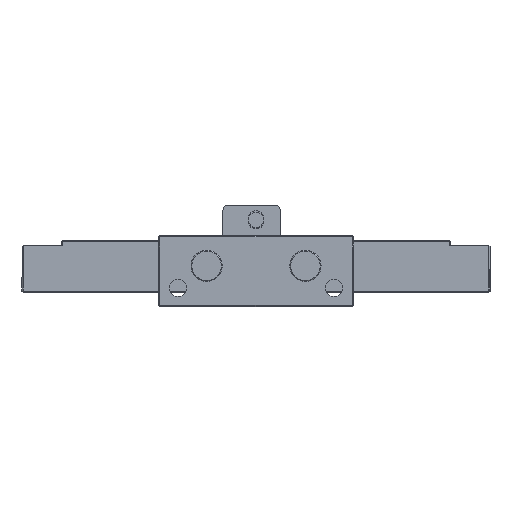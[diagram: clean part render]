
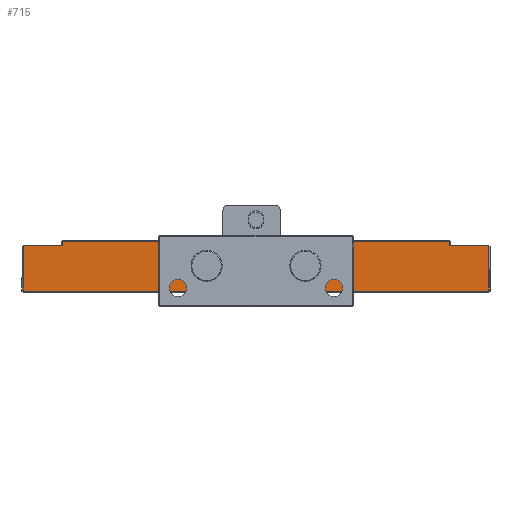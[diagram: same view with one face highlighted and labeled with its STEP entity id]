
A CAD part, top view. The second image highlights one B-rep face of the part: STEP entity #715.
In plain terms, the highlighted planar face has unit normal (0, 0, 1) as drawn and (0, 0, -1) by its records, which use the part's own axes.
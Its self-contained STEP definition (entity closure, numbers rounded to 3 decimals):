
#715 = ADVANCED_FACE ( 'NONE', ( #5490, #5896, #1964, #15398 ), #918, .F. ) ;
#719 = VERTEX_POINT ( 'NONE', #8824 ) ;
#817 = CARTESIAN_POINT ( 'NONE',  ( 89.6, -9.6, -37.5 ) ) ;
#875 = CARTESIAN_POINT ( 'NONE',  ( -26.45, 0., -37.5 ) ) ;
#918 = PLANE ( 'NONE',  #6330 ) ;
#959 = VERTEX_POINT ( 'NONE', #14511 ) ;
#977 = EDGE_LOOP ( 'NONE', ( #6082, #5176 ) ) ;
#1118 = EDGE_CURVE ( 'NONE', #959, #9516, #3447, .T. ) ;
#1260 = VECTOR ( 'NONE', #4390, 1000. ) ;
#1309 = EDGE_LOOP ( 'NONE', ( #11659, #16910, #9229, #5377, #7184, #12444, #8617, #10847 ) ) ;
#1349 = DIRECTION ( 'NONE',  ( 0., -1., 0. ) ) ;
#1374 = DIRECTION ( 'NONE',  ( 1., 0., 0. ) ) ;
#1732 = VERTEX_POINT ( 'NONE', #9858 ) ;
#1795 = LINE ( 'NONE', #16917, #11413 ) ;
#1950 = CARTESIAN_POINT ( 'NONE',  ( -19., 0., -37.5 ) ) ;
#1962 = LINE ( 'NONE', #9910, #15395 ) ;
#1964 = FACE_BOUND ( 'NONE', #977, .T. ) ;
#2039 = EDGE_CURVE ( 'NONE', #5729, #959, #1962, .T. ) ;
#2278 = CARTESIAN_POINT ( 'NONE',  ( -90., 8., -37.5 ) ) ;
#2326 = CARTESIAN_POINT ( 'NONE',  ( 0., 0., -37.5 ) ) ;
#2372 = DIRECTION ( 'NONE',  ( -1., 0., 0. ) ) ;
#2633 = EDGE_CURVE ( 'NONE', #4394, #14856, #14160, .T. ) ;
#2808 = DIRECTION ( 'NONE',  ( 0., -1., 0. ) ) ;
#2957 = EDGE_CURVE ( 'NONE', #5729, #719, #3617, .T. ) ;
#3116 = VERTEX_POINT ( 'NONE', #875 ) ;
#3306 = DIRECTION ( 'NONE',  ( 1., 0., 0. ) ) ;
#3331 = CARTESIAN_POINT ( 'NONE',  ( 19., 0., -37.5 ) ) ;
#3399 = CARTESIAN_POINT ( 'NONE',  ( -11.55, 0., -37.5 ) ) ;
#3424 = CARTESIAN_POINT ( 'NONE',  ( 74.6, 9.6, -37.5 ) ) ;
#3447 = LINE ( 'NONE', #9558, #6910 ) ;
#3617 = LINE ( 'NONE', #2278, #13550 ) ;
#3641 = ORIENTED_EDGE ( 'NONE', *, *, #13609, .F. ) ;
#3663 = DIRECTION ( 'NONE',  ( 1., 0., 0. ) ) ;
#3849 = EDGE_CURVE ( 'NONE', #3909, #719, #11310, .T. ) ;
#3899 = CARTESIAN_POINT ( 'NONE',  ( 26.45, 0., -37.5 ) ) ;
#3909 = VERTEX_POINT ( 'NONE', #9604 ) ;
#3985 = VERTEX_POINT ( 'NONE', #3399 ) ;
#4198 = DIRECTION ( 'NONE',  ( 0., 0., -1. ) ) ;
#4390 = DIRECTION ( 'NONE',  ( 0., 1., 0. ) ) ;
#4394 = VERTEX_POINT ( 'NONE', #12070 ) ;
#4648 = DIRECTION ( 'NONE',  ( 1., 0., 0. ) ) ;
#4764 = DIRECTION ( 'NONE',  ( -1., 0., 0. ) ) ;
#4953 = DIRECTION ( 'NONE',  ( 0., 0., 1. ) ) ;
#5097 = CARTESIAN_POINT ( 'NONE',  ( 90., 8., -37.5 ) ) ;
#5138 = DIRECTION ( 'NONE',  ( 1., 0., 0. ) ) ;
#5176 = ORIENTED_EDGE ( 'NONE', *, *, #15753, .F. ) ;
#5377 = ORIENTED_EDGE ( 'NONE', *, *, #6454, .T. ) ;
#5490 = FACE_BOUND ( 'NONE', #11258, .T. ) ;
#5501 = AXIS2_PLACEMENT_3D ( 'NONE', #2326, #11449, #3663 ) ;
#5729 = VERTEX_POINT ( 'NONE', #8755 ) ;
#5896 = FACE_BOUND ( 'NONE', #10284, .T. ) ;
#6058 = CARTESIAN_POINT ( 'NONE',  ( 0., 0., -37.5 ) ) ;
#6082 = ORIENTED_EDGE ( 'NONE', *, *, #9512, .F. ) ;
#6147 = AXIS2_PLACEMENT_3D ( 'NONE', #16981, #9249, #1374 ) ;
#6330 = AXIS2_PLACEMENT_3D ( 'NONE', #7515, #4953, #14015 ) ;
#6454 = EDGE_CURVE ( 'NONE', #7880, #3909, #6959, .T. ) ;
#6477 = CARTESIAN_POINT ( 'NONE',  ( 74.6, 8., -37.5 ) ) ;
#6570 = CARTESIAN_POINT ( 'NONE',  ( 90., -9.6, -37.5 ) ) ;
#6623 = AXIS2_PLACEMENT_3D ( 'NONE', #6058, #15113, #7353 ) ;
#6680 = EDGE_CURVE ( 'NONE', #3116, #3985, #16681, .T. ) ;
#6910 = VECTOR ( 'NONE', #5138, 1000. ) ;
#6959 = LINE ( 'NONE', #6570, #16486 ) ;
#7184 = ORIENTED_EDGE ( 'NONE', *, *, #3849, .T. ) ;
#7284 = VECTOR ( 'NONE', #4764, 1000. ) ;
#7353 = DIRECTION ( 'NONE',  ( 1., 0., 0. ) ) ;
#7515 = CARTESIAN_POINT ( 'NONE',  ( 90., -10., -37.5 ) ) ;
#7877 = DIRECTION ( 'NONE',  ( -1., 0., 0. ) ) ;
#7880 = VERTEX_POINT ( 'NONE', #817 ) ;
#8424 = CIRCLE ( 'NONE', #5501, 4. ) ;
#8608 = LINE ( 'NONE', #13068, #12042 ) ;
#8617 = ORIENTED_EDGE ( 'NONE', *, *, #2039, .T. ) ;
#8755 = CARTESIAN_POINT ( 'NONE',  ( -74.6, 8., -37.5 ) ) ;
#8824 = CARTESIAN_POINT ( 'NONE',  ( -89.6, 8., -37.5 ) ) ;
#9229 = ORIENTED_EDGE ( 'NONE', *, *, #11894, .T. ) ;
#9249 = DIRECTION ( 'NONE',  ( 0., 0., -1. ) ) ;
#9292 = EDGE_CURVE ( 'NONE', #1732, #14289, #15327, .T. ) ;
#9512 = EDGE_CURVE ( 'NONE', #9895, #13237, #15925, .T. ) ;
#9516 = VERTEX_POINT ( 'NONE', #3424 ) ;
#9549 = AXIS2_PLACEMENT_3D ( 'NONE', #11957, #4198, #13260 ) ;
#9558 = CARTESIAN_POINT ( 'NONE',  ( 75., 9.6, -37.5 ) ) ;
#9604 = CARTESIAN_POINT ( 'NONE',  ( -89.6, -9.6, -37.5 ) ) ;
#9858 = CARTESIAN_POINT ( 'NONE',  ( 11.55, 0., -37.5 ) ) ;
#9895 = VERTEX_POINT ( 'NONE', #14989 ) ;
#9910 = CARTESIAN_POINT ( 'NONE',  ( -74.6, -10., -37.5 ) ) ;
#10284 = EDGE_LOOP ( 'NONE', ( #15390, #16411 ) ) ;
#10847 = ORIENTED_EDGE ( 'NONE', *, *, #1118, .T. ) ;
#11095 = DIRECTION ( 'NONE',  ( 0., 0., -1. ) ) ;
#11152 = CIRCLE ( 'NONE', #16205, 7.45 ) ;
#11258 = EDGE_LOOP ( 'NONE', ( #3641, #15803 ) ) ;
#11310 = LINE ( 'NONE', #12143, #1260 ) ;
#11413 = VECTOR ( 'NONE', #2808, 1000. ) ;
#11449 = DIRECTION ( 'NONE',  ( 0., 0., -1. ) ) ;
#11659 = ORIENTED_EDGE ( 'NONE', *, *, #15990, .T. ) ;
#11894 = EDGE_CURVE ( 'NONE', #4394, #7880, #1795, .T. ) ;
#11957 = CARTESIAN_POINT ( 'NONE',  ( 19., 0., -37.5 ) ) ;
#12042 = VECTOR ( 'NONE', #1349, 1000. ) ;
#12070 = CARTESIAN_POINT ( 'NONE',  ( 89.6, 8., -37.5 ) ) ;
#12143 = CARTESIAN_POINT ( 'NONE',  ( -89.6, -10., -37.5 ) ) ;
#12395 = DIRECTION ( 'NONE',  ( 0., 0., -1. ) ) ;
#12444 = ORIENTED_EDGE ( 'NONE', *, *, #2957, .F. ) ;
#12475 = AXIS2_PLACEMENT_3D ( 'NONE', #1950, #11095, #3306 ) ;
#13068 = CARTESIAN_POINT ( 'NONE',  ( 74.6, -10., -37.5 ) ) ;
#13120 = DIRECTION ( 'NONE',  ( 0., 1., 0. ) ) ;
#13237 = VERTEX_POINT ( 'NONE', #16664 ) ;
#13260 = DIRECTION ( 'NONE',  ( 1., 0., 0. ) ) ;
#13550 = VECTOR ( 'NONE', #2372, 1000. ) ;
#13609 = EDGE_CURVE ( 'NONE', #14289, #1732, #11152, .T. ) ;
#14015 = DIRECTION ( 'NONE',  ( -1., 0., 0. ) ) ;
#14160 = LINE ( 'NONE', #5097, #7284 ) ;
#14289 = VERTEX_POINT ( 'NONE', #3899 ) ;
#14511 = CARTESIAN_POINT ( 'NONE',  ( -74.6, 9.6, -37.5 ) ) ;
#14856 = VERTEX_POINT ( 'NONE', #6477 ) ;
#14965 = CIRCLE ( 'NONE', #6147, 7.45 ) ;
#14989 = CARTESIAN_POINT ( 'NONE',  ( 4., 0., -37.5 ) ) ;
#15113 = DIRECTION ( 'NONE',  ( 0., 0., -1. ) ) ;
#15327 = CIRCLE ( 'NONE', #9549, 7.45 ) ;
#15350 = EDGE_CURVE ( 'NONE', #3985, #3116, #14965, .T. ) ;
#15390 = ORIENTED_EDGE ( 'NONE', *, *, #15350, .F. ) ;
#15395 = VECTOR ( 'NONE', #13120, 1000. ) ;
#15398 = FACE_OUTER_BOUND ( 'NONE', #1309, .T. ) ;
#15753 = EDGE_CURVE ( 'NONE', #13237, #9895, #8424, .T. ) ;
#15803 = ORIENTED_EDGE ( 'NONE', *, *, #9292, .F. ) ;
#15925 = CIRCLE ( 'NONE', #6623, 4. ) ;
#15990 = EDGE_CURVE ( 'NONE', #9516, #14856, #8608, .T. ) ;
#16205 = AXIS2_PLACEMENT_3D ( 'NONE', #3331, #12395, #4648 ) ;
#16411 = ORIENTED_EDGE ( 'NONE', *, *, #6680, .F. ) ;
#16486 = VECTOR ( 'NONE', #7877, 1000. ) ;
#16664 = CARTESIAN_POINT ( 'NONE',  ( -4., 0., -37.5 ) ) ;
#16681 = CIRCLE ( 'NONE', #12475, 7.45 ) ;
#16910 = ORIENTED_EDGE ( 'NONE', *, *, #2633, .F. ) ;
#16917 = CARTESIAN_POINT ( 'NONE',  ( 89.6, -10., -37.5 ) ) ;
#16981 = CARTESIAN_POINT ( 'NONE',  ( -19., 0., -37.5 ) ) ;
